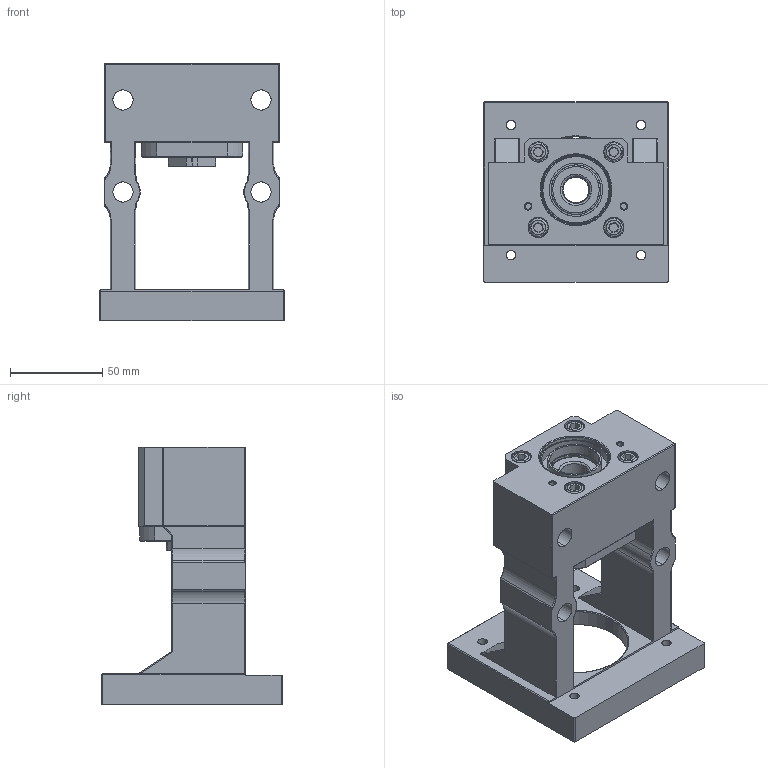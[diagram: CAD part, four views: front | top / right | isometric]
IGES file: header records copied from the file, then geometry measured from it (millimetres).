
Start section: SolidWorks IGES file using analytic representation for surfaces
Global section: file name: C:\Users\117\Desktop\1061208網站3D圖檔問題處理\傳動座\整合型\MBCS(F)\MBCS15\MBCS15-X.IGS,15HSolidWorks; native system: 2017; preprocessor: SolidWorks 2017; author: 117; date: 171228.154746; units: millimetre
Bounding box: 100 x 98 x 140 mm (x, y, z)
Surface area: 84523.5 mm2 (no closed solid volume)
Topology: 0 solids, 0 shells, 347 faces, 5108 edges, 5080 vertices
Faces by surface type: revolution 195, bspline 152
